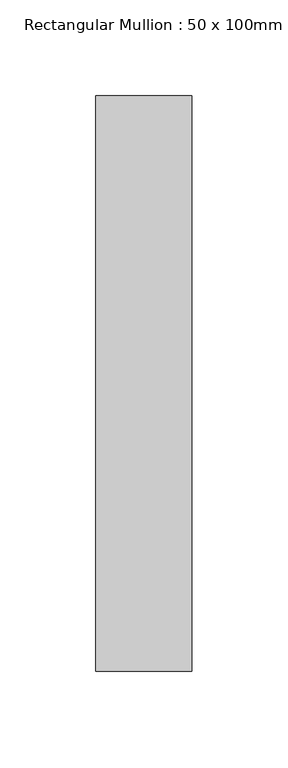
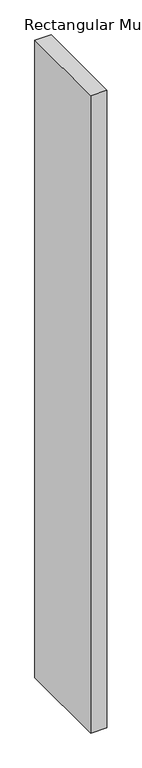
"""IFC4 building model written with IfcOpenShell, lengths in millimetres: member geometry, Rectangular Mullion : 50 x 100mm."""

from ifc_helpers import new_model, si_unit, frame, origin, place, context, project, spatial, polyline, outline, extrude, source, transform, mapped, element, save


def rectangular_mullion_50_x_100mm_a661aa95(model_context):
    return source(origin(), model_context, "Body", "SweptSolid", [
        extrude(outline(polyline([(0.0, 175.0), (0.0, -125.0), (-50.0, -125.0), (-50.0, 175.0), (0.0, 175.0)])), frame((0.0, 0.0, -2090.0), z_axis=(0.0, 0.0, 1.0), x_axis=(1.0, 0.0, 0.0)), (0.0, 0.0, 1.0), 2090.0),
    ])


if __name__ == "__main__":
    model = new_model("IFC4")
    model_context = context("Model", 3, world=origin())
    ifc_project = project(units=[si_unit("LENGTHUNIT", "METRE", prefix="MILLI")], contexts=[model_context])
    site = spatial("IfcSite", under=ifc_project)
    building = spatial("IfcBuilding", under=site)
    placement = place(None, origin())
    rectangular_mullion_50_x_100mm_shape = rectangular_mullion_50_x_100mm_a661aa95(model_context)
    element("IfcMember", 1, ObjectType="Rectangular Mullion : 50 x 100mm", at=placement, inside=building, context=model_context, shape_type="MappedRepresentation", body=[
        mapped(rectangular_mullion_50_x_100mm_shape, transform((0.0, 0.0, 0.0), x_axis=(1.0, 0.0, 0.0), y_axis=(0.0, 1.0, 0.0), z_axis=(0.0, 0.0, 1.0))),
    ])
    save(model, "model.ifc")
